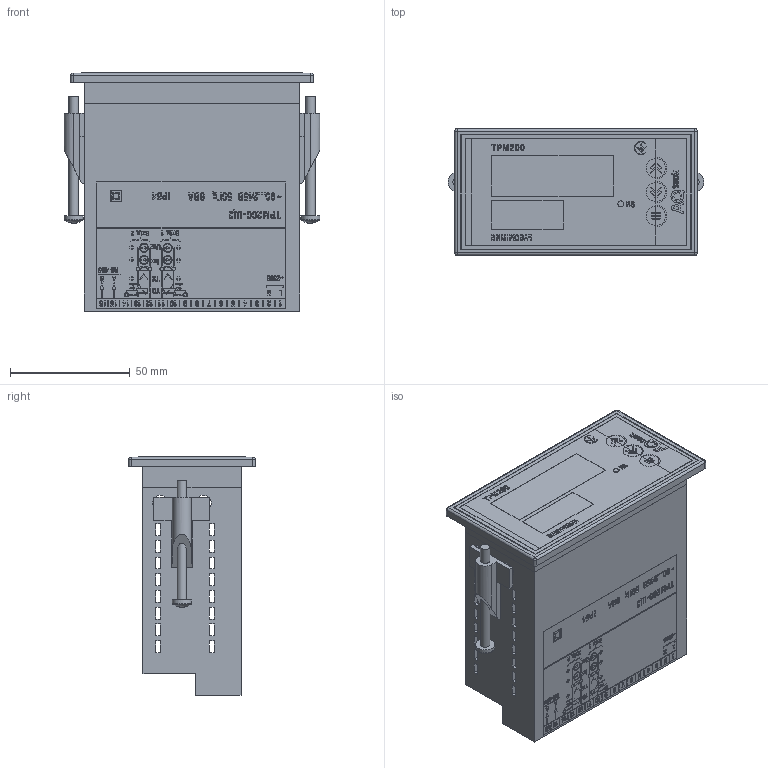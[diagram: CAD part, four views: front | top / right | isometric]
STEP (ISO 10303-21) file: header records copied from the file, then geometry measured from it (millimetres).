
FILE_DESCRIPTION (( 'STEP AP214' ), '1' );
FILE_NAME ('ﾒﾐﾌ200-ﾙ2 [U03].STEP', '2025-02-25T11:13:19', ( '' ), ( '' ), 'SwSTEP 2.0', 'SolidWorks 2019', '' );
FILE_SCHEMA (( 'AUTOMOTIVE_DESIGN' ));
Length unit declared in the file: millimetre
Products named in the file (9): óù³ëüíþâà÷ (Ù2); BoardsPCBﾒﾐﾌ500_ﾙ2; 2EDGKR-5.08-1p; Êð³ïëåííÿ ï³ä âèíò Ì4; Êîðïóñ ÒÐÌ200-Ù2 [U03]; AQ_TRM200_002F01M; M4 x 0.7 x 40 Type I Cross Recessed PHMS; 2EDGKR-5.08-16; ﾒﾐﾌ200-ﾙ2 [U03]
Assembly tree (25 placements, depth 3):
  ﾒﾐﾌ200-ﾙ2 [U03]
    2EDGKR-5.08-16
      2EDGKR-5.08-1p  x16
    óù³ëüíþâà÷ (Ù2)
    Êîðïóñ ÒÐÌ200-Ù2 [U03]
    Êð³ïëåííÿ ï³ä âèíò Ì4  x2
    M4 x 0.7 x 40 Type I Cross Recessed PHMS  x2
    AQ_TRM200_002F01M
    BoardsPCBﾒﾐﾌ500_ﾙ2
Bounding box: 107 x 53 x 99.63 mm (x, y, z)
Volume: 93970 mm3; surface area: 128131.2 mm2
Topology: 187 solids, 187 shells, 4188 faces, 11241 edges, 7446 vertices
Faces by surface type: plane 2855, bspline 1049, cylinder 276, sphere 6, torus 2
Full cylindrical faces by diameter (mm): 1.274 x2, 2.5 x2, 3.268 x4, 4 x2, 8 x5
Entity records: 144078 total; most frequent: CARTESIAN_POINT 32848, ORIENTED_EDGE 18714, DIRECTION 12352, EDGE_CURVE 9357, LINE 7014, VECTOR 7014, VERTEX_POINT 6237, EDGE_LOOP 3934
